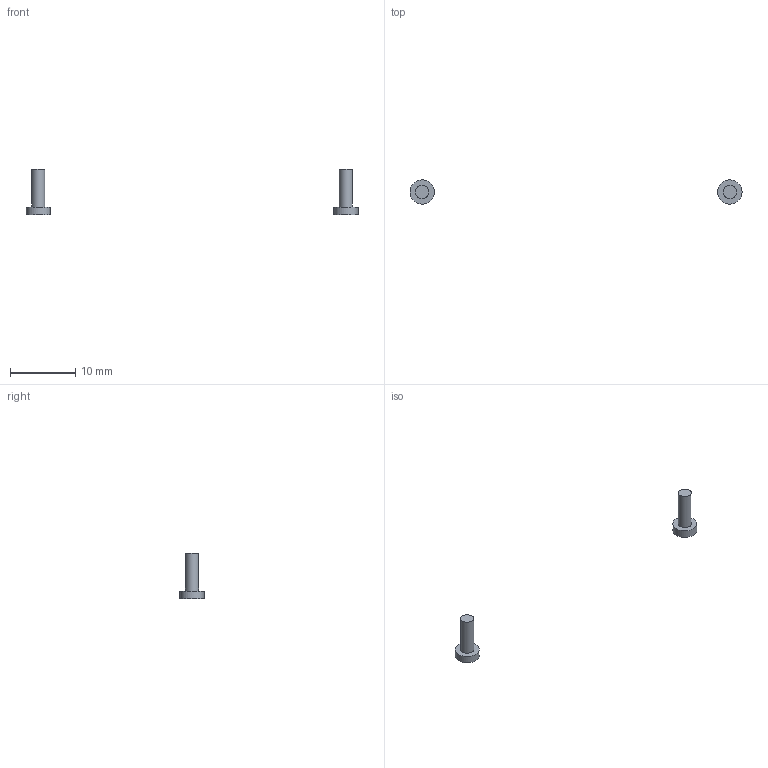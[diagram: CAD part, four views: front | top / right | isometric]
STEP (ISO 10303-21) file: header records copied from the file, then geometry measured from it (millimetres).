
FILE_DESCRIPTION(('Open CASCADE Model'),'2;1');
FILE_NAME('Open CASCADE Shape Model','2026-09-09T12:58:10',('Author'),( 'Open CASCADE'),'Open CASCADE STEP processor 7.9','Open CASCADE 7.9' ,'Unknown');
FILE_SCHEMA(('AUTOMOTIVE_DESIGN { 1 0 10303 214 1 1 1 1 }'));
Length unit declared in the file: millimetre
Products named in the file (3): Open CASCADE STEP translator 7.9 41; Open CASCADE STEP translator 7.9 41.1; Open CASCADE STEP translator 7.9 41.2
Assembly tree (2 placements, depth 2):
  Open CASCADE STEP translator 7.9 41
    Open CASCADE STEP translator 7.9 41.1
    Open CASCADE STEP translator 7.9 41.2
Bounding box: 50.7 x 3.7 x 7 mm (x, y, z)
Volume: 62.2 mm3; surface area: 143.8 mm2
Topology: 2 solids, 2 shells, 10 faces, 12 edges, 8 vertices
Faces by surface type: plane 6, cylinder 4
Full cylindrical faces by diameter (mm): 2 x2, 3.7 x2
Entity records: 410 total; most frequent: CARTESIAN_POINT 69, DIRECTION 68, ORIENTED_EDGE 24, PCURVE 24, DEFINITIONAL_REPRESENTATION 24, AXIS2_PLACEMENT_3D 21, LINE 20, VECTOR 20
